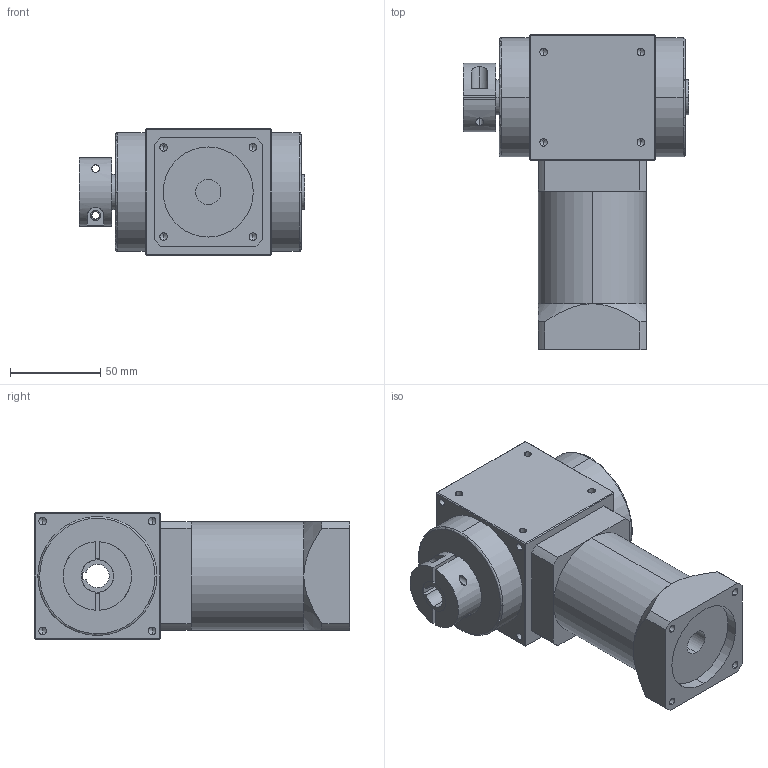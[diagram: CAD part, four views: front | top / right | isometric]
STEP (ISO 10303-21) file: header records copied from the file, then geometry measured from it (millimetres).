
FILE_DESCRIPTION (( 'STEP AP214' ), '1' );
FILE_NAME ('PAW070A-L2-C-K(3-10) 14-50-70-M5.STEP', '2020-12-04T09:32:18', ( '微软用户' ), ( '微软中国' ), 'SwSTEP 2.0', 'SolidWorks 2014', '' );
FILE_SCHEMA (( 'AUTOMOTIVE_DESIGN' ));
Length unit declared in the file: millimetre
Products named in the file (2): PAW070A-L2-C-K(3-10) 14-50-70-M5
Bounding box: 125 x 175 x 70 mm (x, y, z)
Volume: 762157 mm3; surface area: 76672.2 mm2
Topology: 3 solids, 3 shells, 226 faces, 550 edges, 308 vertices
Faces by surface type: cylinder 107, plane 63, cone 52, torus 4
Entity records: 10281 total; most frequent: CARTESIAN_POINT 2678, DIRECTION 1092, ORIENTED_EDGE 1004, EDGE_CURVE 502, AXIS2_PLACEMENT_3D 418, VERTEX_POINT 308, EDGE_LOOP 270, VECTOR 256
